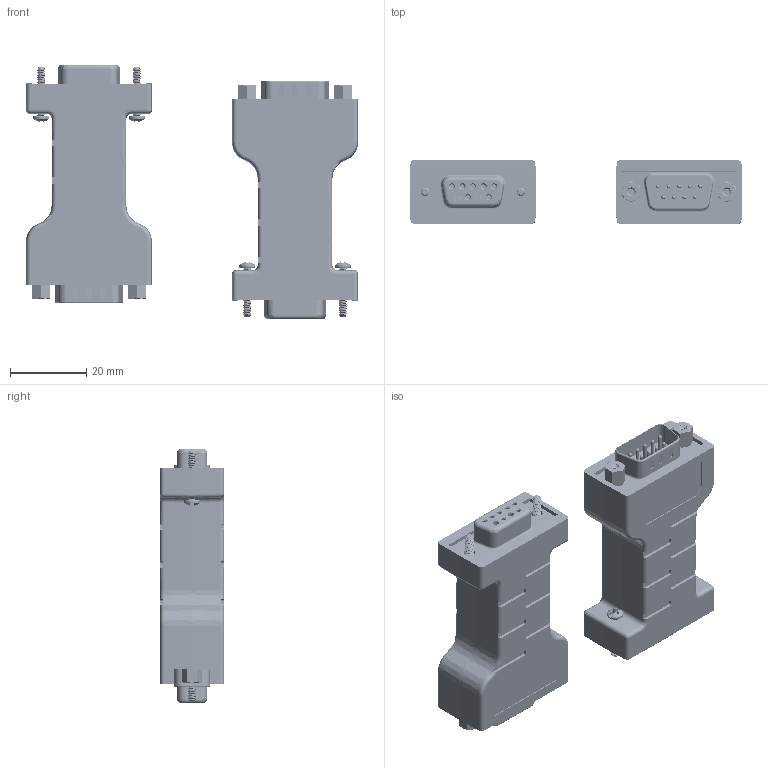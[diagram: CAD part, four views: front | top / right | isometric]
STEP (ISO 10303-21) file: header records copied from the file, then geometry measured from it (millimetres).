
FILE_DESCRIPTION(/* description */ (''),/* implementation_level */ '2;1');
FILE_NAME(/* name */ 'C:/Users/Leo/Desktop/AA CoolGear CADs/GM-1010-B/GM-1012-B Model3D LPV1.step',/* time_stamp */ '2021-08-25T14:21:56-04:00',/* author */ (''),/* organization */ (''),/* preprocessor_version */ 'ST-DEVELOPER v18.1',/* originating_system */ 'Autodesk Translation Framework v10.9.0.1377',/* authorisation */ '');
FILE_SCHEMA (('AUTOMOTIVE_DESIGN { 1 0 10303 214 3 1 1 }'));
Products named in the file (6): GM-1010-B; 8609N11_Filtered D-Sub Connector; 8609N15_Filtered D-Sub Connector; 90604A306_Pan Head Combination Phillips Slotted Screws; 91075A512_Male-Female Threaded Hex Standoff; Component6
Assembly tree (14 placements, depth 2):
  GM-1010-B
    8609N11_Filtered D-Sub Connector  x2
    8609N15_Filtered D-Sub Connector  x2
    90604A306_Pan Head Combination Phillips Slotted Screws  x4
    91075A512_Male-Female Threaded Hex Standoff  x4
    Component6  x2
Bounding box: 86.99 x 16.66 x 66.66 mm (x, y, z)
Volume: 16833.3 mm3; surface area: 29096.4 mm2
Topology: 8 solids, 8 shells, 2424 faces, 6234 edges, 3866 vertices
Faces by surface type: cylinder 1108, plane 908, cone 130, bspline 116, torus 104, sphere 58
Full cylindrical faces by diameter (mm): 0.9 x36, 1 x54, 1.05 x18, 1.5 x18, 1.59 x4, 1.595 x148, 2.184 x140, 3 x12, 4.242 x4, 4.4 x8
Entity records: 55529 total; most frequent: CARTESIAN_POINT 27252, ORIENTED_EDGE 6120, DIRECTION 5563, EDGE_CURVE 3060, AXIS2_PLACEMENT_3D 2035, VERTEX_POINT 1933, LINE 1493, VECTOR 1493
